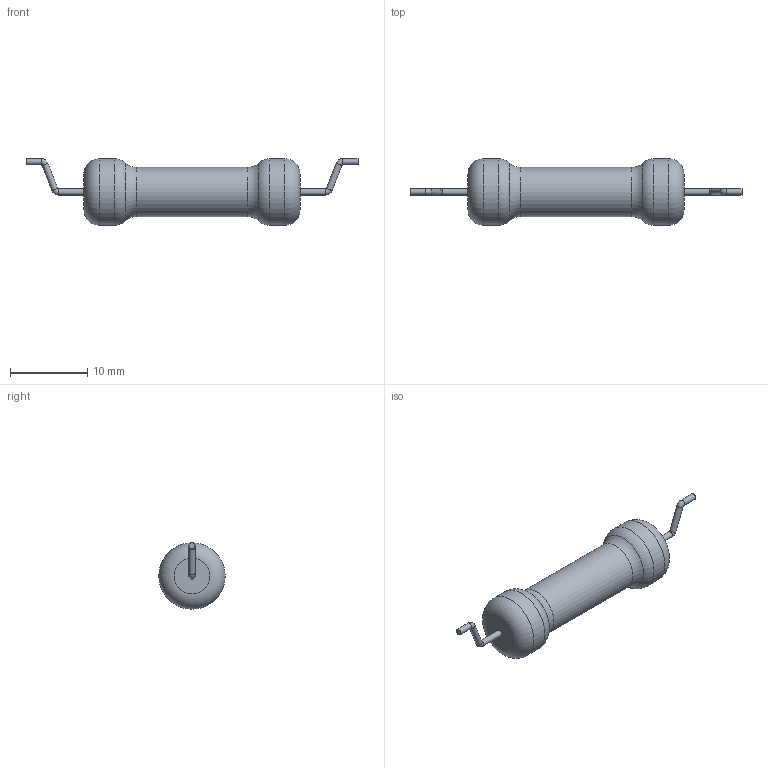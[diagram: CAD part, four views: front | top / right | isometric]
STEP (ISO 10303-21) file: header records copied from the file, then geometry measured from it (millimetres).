
FILE_DESCRIPTION(('STEP AP203'), '1');
FILE_NAME('R1-32-1(3)', '', ('UNSPECIFIED'), ('UNSPECIFIED'), 'ASCON STEP Converter 1.6', 'ASCON Math Kernel', '');
FILE_SCHEMA(('CONFIG_CONTROL_DESIGN'));
Length unit declared in the file: millimetre
Bounding box: 43 x 8.6 x 8.6 mm (x, y, z)
Volume: 1145.7 mm3; surface area: 767.2 mm2
Topology: 1 solids, 1 shells, 23 faces, 41 edges, 22 vertices
Faces by surface type: torus 10, cylinder 9, plane 4
Full cylindrical faces by diameter (mm): 0.8 x6, 6.4 x1, 8.6 x2
Entity records: 682 total; most frequent: DIRECTION 92, CARTESIAN_POINT 68, AXIS2_PLACEMENT_3D 46, EDGE_LOOP 44, ORIENTED_EDGE 44, FACE_OUTER_BOUND 38, COLOUR_RGB 24, FILL_AREA_STYLE_COLOUR 24
